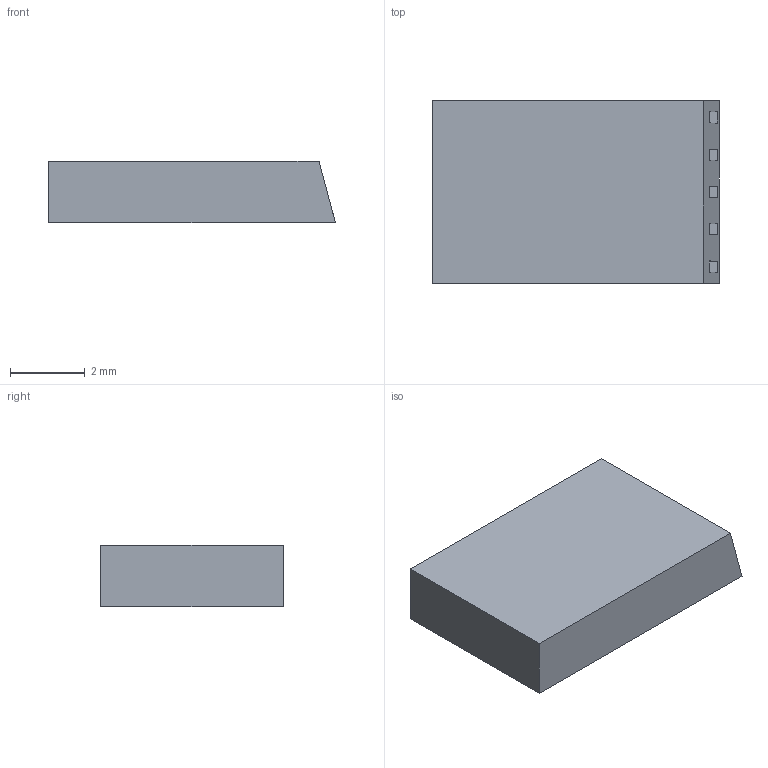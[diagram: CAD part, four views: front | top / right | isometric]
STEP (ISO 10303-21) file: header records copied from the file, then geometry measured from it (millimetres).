
FILE_DESCRIPTION(/* description */ ('STEP AP242 Edition 2','CAx-IF Rec.Pracs.---Representation and Presentation of Product Manufacturing Information (PMI)---4.0---2014-10-13','CAx-IF Rec.Pracs.---3D Tessellated Geometry---0.4---2014-09-14','2;1','CAx-IF Rec.Pracs.---User Defined Attributes---1.5---2016-08-15'),/* implementation_level */ '2;1');
FILE_NAME(/* name */ 'Drone Layout - Surface 69',/* time_stamp */ '2026-10-04T22:23:00Z',/* author */ (''),/* organization */ (''),/* preprocessor_version */ 'ST-DEVELOPER v20',/* originating_system */ 'ONSHAPE BY PTC INC, 1.221',/* authorisation */ ' ');
FILE_SCHEMA (('AP242_MANAGED_MODEL_BASED_3D_ENGINEERING_MIM_LF { 1 0 10303 442 3 1 4 }'));
Length unit declared in the file: metre
Products named in the file (1): USB:1__plug
Bounding box: 7.69 x 4.9 x 1.64 mm (x, y, z)
Volume: 56.4 mm3; surface area: 146.1 mm2
Topology: 1 solids, 1 shells, 31 faces, 72 edges, 48 vertices
Faces by surface type: plane 31
Entity records: 879 total; most frequent: CARTESIAN_POINT 152, ORIENTED_EDGE 144, DIRECTION 136, EDGE_CURVE 72, LINE 72, VECTOR 72, VERTEX_POINT 48, EDGE_LOOP 36
